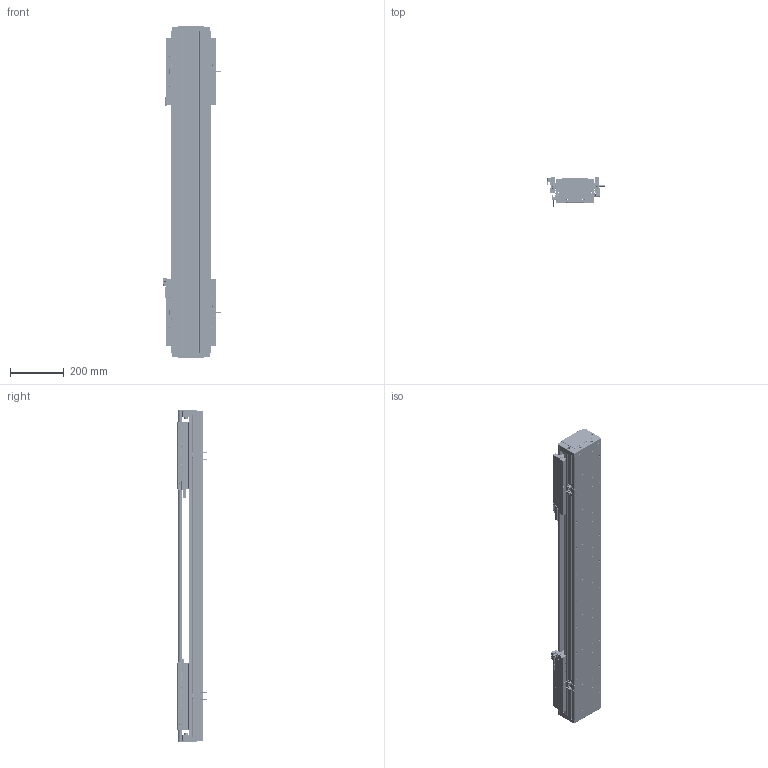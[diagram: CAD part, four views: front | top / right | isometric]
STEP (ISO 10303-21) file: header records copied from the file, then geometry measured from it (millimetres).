
FILE_DESCRIPTION (( 'STEP AP203' ), '1' );
FILE_NAME ('DA-C145-2-C3-T620-C010-0.2 眻盄萇儂.STEP', '2025-08-13T10:16:39', ( '' ), ( '' ), 'SwSTEP 2.0', 'SolidWorks 2019', '' );
FILE_SCHEMA (( 'CONFIG_CONTROL_DESIGN' ));
Length unit declared in the file: millimetre
Products named in the file (35): 葩璃 鞠褒情蹟譫 M3^DA-C145-2-C3-T-C010-0.2; DKW168-HXJ-ZJ-00 笢潔滅袉砎蝶; 葩璃 DA95-GT-T-00^IU-CU145-L 菁釱絳寢; 葩璃 DA145-DG-H-N-00 傷裔^DA-C145-2-C3-T-C010-0.2; 葩璃 CKM03-W060-C1C2-TP-0.2^DA-C145-2-C3-T-C010-0.2; 葩璃 DMA-010-0.2 黍杅芛^DA-C145-2-C3-T-C010-0.2; IU-CU145-L 菁釱絳寢; 葩璃 XD-U-02L 棠掑喜^DA-C145-2-C3-T-C010-0.2; 复件 DA95-DB-00  挡板^CU145-W 滚珠滑台; CU145-W-00 珨极趙賑雄怢啣; TAY01-M8; 复件 内六角平端紧定螺钉 GB.T77-2000 M5×10^CU145-W 滚珠滑台; DA-C145-2-C3-T620-C010-0.2 眻盄萇儂; CU145-W-00 珨极趙賑雄怢啣-1; DKW-KGZ-ZJ-00 中间光电开关支架; 葩璃 DA145-T-003-00 裔啣^DA-C145-2-C3-T-C010-0.2; 葩璃 PM-Y65^DA-C145-2-C3-T-C010-0.2; 葩璃 DA145-C3-DP-A-00 菜えA^CU145-W 幗紩賑怢; CU145-W 幗紩賑怢-1; 复件 纯铜油杯 6x6mm^CU145-W 滚珠滑台; 复件 DA95-HK-GT-00 滑块钢轨^CU145-W-00 一体化滑动台板; 复件 半圆头内六角螺钉 M3×6^CU145-W 滚珠滑台; 葩璃 CKMA01-W060-TRL^DA-C145-2-C3-T-C010-0.2; 66245-CU145-HT-W-00 賑雄怢啣(3D芞祧)(00); 葩璃 DA145-C3-DP-B-00 菜えB^CU145-W 幗紩賑怢; 葩璃 PM-T45^DA-C145-2-C3-T-C010-0.2; 复件 DA145-C3-DK-00 挡块^CU145-W 滚珠滑台; 复件 DA95-MFP-01 密封片^CU145-W 滚珠滑台; 复件 DA145-C3-YB-B-00 压板B^CU145-W 滚珠滑台; DKW-GYP-ZJ-00 笢潔嫖萇覜茼え; 葩璃 DA95-HXJ-00 遣喳砎蝶^DA-C145-2-C3-T-C010-0.2; IU-CU145-L-00 菁釱(L1200); 复件 DA145-C3-YB-A-00 压板A^CU145-W 滚珠滑台; 复件 DA145-GYP-00 光电感应片^DA-C145-2-C3-T-C010-0.2; CU145-W 幗紩賑怢
Assembly tree (175 placements, depth 4):
  DA-C145-2-C3-T620-C010-0.2 眻盄萇儂
    IU-CU145-L 菁釱絳寢
      IU-CU145-L-00 菁釱(L1200)
      葩璃 DA95-GT-T-00^IU-CU145-L 菁釱絳寢  x4
    CU145-W 幗紩賑怢
      CU145-W-00 珨极趙賑雄怢啣
        66245-CU145-HT-W-00 賑雄怢啣(3D芞祧)(00)
        复件 DA95-HK-GT-00 滑块钢轨^CU145-W-00 一体化滑动台板  x8
      复件 DA95-MFP-01 密封片^CU145-W 滚珠滑台  x8
      复件 DA95-DB-00  挡板^CU145-W 滚珠滑台  x8
      复件 内六角平端紧定螺钉 GB.T77-2000 M5×10^CU145-W 滚珠滑台  x4
      复件 纯铜油杯 6x6mm^CU145-W 滚珠滑台  x4
      复件 半圆头内六角螺钉 M3×6^CU145-W 滚珠滑台  x16
      复件 DA145-C3-DK-00 挡块^CU145-W 滚珠滑台  x4
      葩璃 DA145-C3-DP-B-00 菜えB^CU145-W 幗紩賑怢  x2
      复件 DA145-C3-YB-B-00 压板B^CU145-W 滚珠滑台  x2
      葩璃 DA145-C3-DP-A-00 菜えA^CU145-W 幗紩賑怢  x3
      复件 DA145-C3-YB-A-00 压板A^CU145-W 滚珠滑台  x3
      TAY01-M8  x4
    CU145-W 幗紩賑怢-1
      CU145-W-00 珨极趙賑雄怢啣-1
        66245-CU145-HT-W-00 賑雄怢啣(3D芞祧)(00)
        复件 DA95-HK-GT-00 滑块钢轨^CU145-W-00 一体化滑动台板  x8
      复件 DA95-MFP-01 密封片^CU145-W 滚珠滑台  x8
      复件 DA95-DB-00  挡板^CU145-W 滚珠滑台  x8
      复件 内六角平端紧定螺钉 GB.T77-2000 M5×10^CU145-W 滚珠滑台  x4
      复件 纯铜油杯 6x6mm^CU145-W 滚珠滑台  x4
      复件 半圆头内六角螺钉 M3×6^CU145-W 滚珠滑台  x16
      复件 DA145-C3-DK-00 挡块^CU145-W 滚珠滑台  x4
      葩璃 DA145-C3-DP-B-00 菜えB^CU145-W 幗紩賑怢  x2
      复件 DA145-C3-YB-B-00 压板B^CU145-W 滚珠滑台  x2
      葩璃 DA145-C3-DP-A-00 菜えA^CU145-W 幗紩賑怢  x3
      复件 DA145-C3-YB-A-00 压板A^CU145-W 滚珠滑台  x3
      TAY01-M8  x4
    葩璃 CKMA01-W060-TRL^DA-C145-2-C3-T-C010-0.2
    葩璃 PM-T45^DA-C145-2-C3-T-C010-0.2  x4
    葩璃 XD-U-02L 棠掑喜^DA-C145-2-C3-T-C010-0.2
    葩璃 DA145-DG-H-N-00 傷裔^DA-C145-2-C3-T-C010-0.2  x2
    葩璃 DA145-T-003-00 裔啣^DA-C145-2-C3-T-C010-0.2
    葩璃 DA95-HXJ-00 遣喳砎蝶^DA-C145-2-C3-T-C010-0.2  x4
    葩璃 CKM03-W060-C1C2-TP-0.2^DA-C145-2-C3-T-C010-0.2  x2
    葩璃 DMA-010-0.2 黍杅芛^DA-C145-2-C3-T-C010-0.2  x2
    复件 DA145-GYP-00 光电感应片^DA-C145-2-C3-T-C010-0.2  x2
    DKW-GYP-ZJ-00 笢潔嫖萇覜茼え
    DKW-KGZ-ZJ-00 中间光电开关支架
    葩璃 PM-Y65^DA-C145-2-C3-T-C010-0.2
    葩璃 鞠褒情蹟譫 M3^DA-C145-2-C3-T-C010-0.2  x8
    DKW168-HXJ-ZJ-00 笢潔滅袉砎蝶
Bounding box: 213.7 x 108.45 x 1240 mm (x, y, z)
Volume: 9718259 mm3; surface area: 2708015.1 mm2
Topology: 171 solids, 235 shells, 6940 faces, 18028 edges, 11051 vertices
Faces by surface type: plane 2932, cylinder 2720, cone 1120, torus 152, sphere 8, bspline 8
Entity records: 107771 total; most frequent: CARTESIAN_POINT 26864, DIRECTION 15339, ORIENTED_EDGE 15220, EDGE_CURVE 7610, AXIS2_PLACEMENT_3D 5571, VERTEX_POINT 4900, LINE 4197, VECTOR 4197
